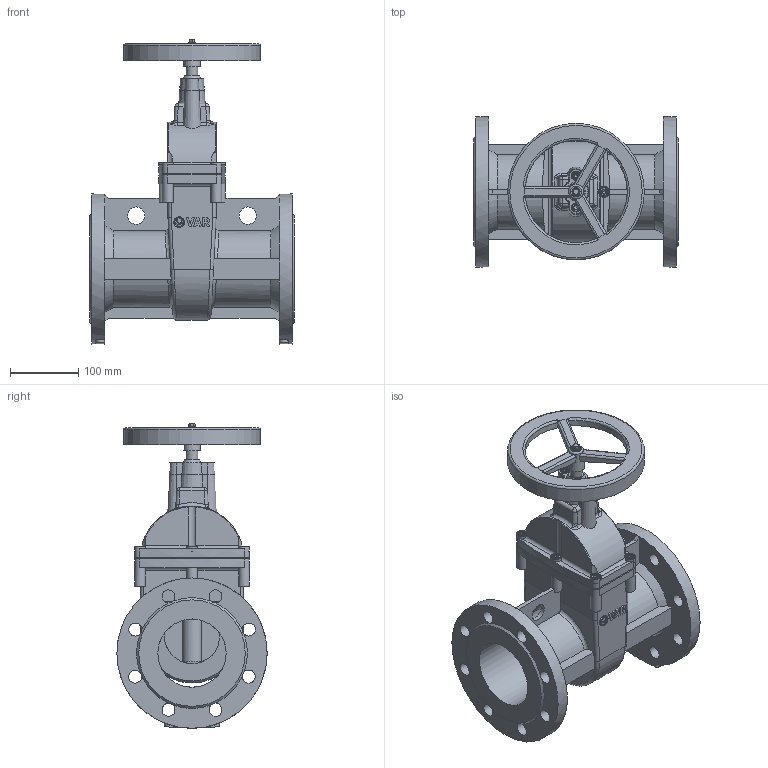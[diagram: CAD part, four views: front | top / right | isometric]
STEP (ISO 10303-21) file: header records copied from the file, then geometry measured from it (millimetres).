
FILE_DESCRIPTION(('STEP AP242'), '1');
FILE_NAME('青溻桄赅', '', ('UNSPECIFIED'), ('UNSPECIFIED'), 'C3D Converter', 'C3D Toolkit', '');
FILE_SCHEMA(('AP242_MANAGED_MODEL_BASED_3D_ENGINEERING_MIM_LF { 1 0 10303 442 1 1 4 }'));
Length unit declared in the file: millimetre
Assembly tree (17 placements, depth 2):
  (unnamed)
    (unnamed)
    (unnamed)
    (unnamed)
    (unnamed)
    (unnamed)  x2
    (unnamed)
    (unnamed)
    (unnamed)  x6
    (unnamed)  x2
    (unnamed)
Bounding box: 300 x 220 x 445.8 mm (x, y, z)
Volume: 3549648 mm3; surface area: 812056.1 mm2
Topology: 20 solids, 20 shells, 964 faces, 2467 edges, 1575 vertices
Faces by surface type: plane 469, cylinder 196, extrusion 139, bspline 70, cone 69, torus 21
Full cylindrical faces by diameter (mm): 5 x3, 6 x8, 8 x30, 13 x8, 13.6 x8, 15.863 x1, 17 x7, 19 x16, 25.25 x2, 29.667 x3, 81 x2, 100 x4, 130.4 x4, 138 x1, 150 x1, 160 x1, 190 x1, 200 x1, 220 x2
Entity records: 43752 total; most frequent: CARTESIAN_POINT 22016, ORIENTED_EDGE 4048, DIRECTION 3156, EDGE_CURVE 2024, VERTEX_POINT 1381, EDGE_LOOP 1063, VECTOR 1054, AXIS2_PLACEMENT_3D 1051
